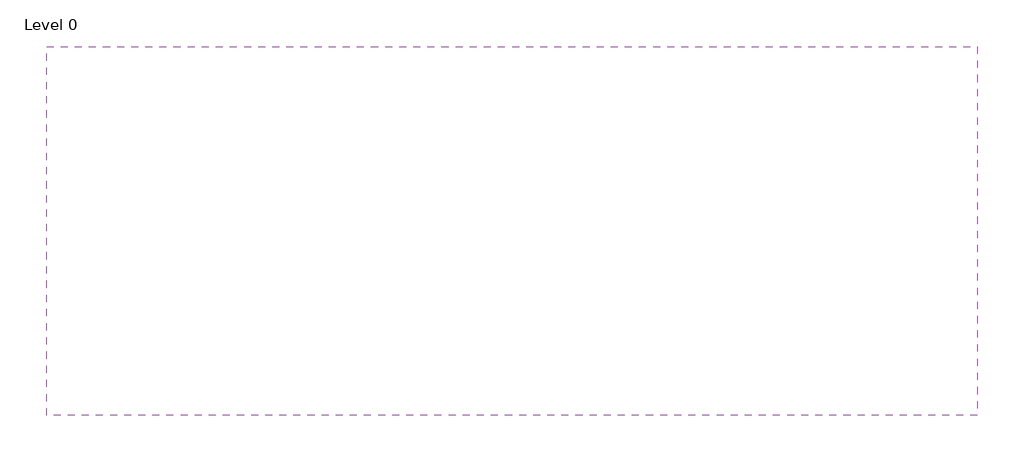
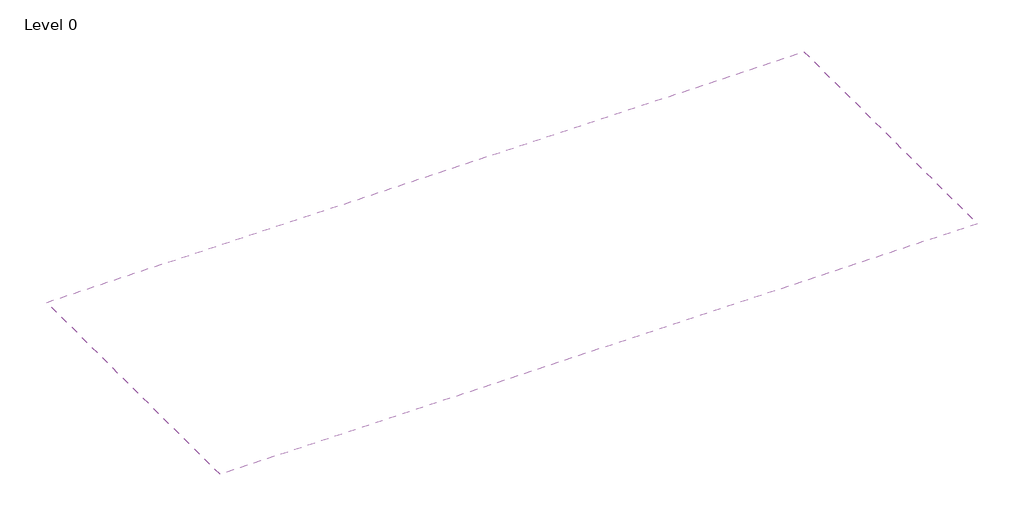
# One storey: 1 covering.
"""IFC4 building model written with IfcOpenShell, lengths in millimetres."""

from ifc_helpers import new_model, si_unit, frame, origin, place, context, project, spatial, polyline, outline, extrude, element, save

model = new_model("IFC4")

# Units and contexts
model_context = context("Model", 3, world=origin())
ifc_project = project(units=[si_unit("LENGTHUNIT", "METRE", prefix="MILLI")], contexts=[model_context])

# Site, building, storey
site = spatial("IfcSite", under=ifc_project)
building = spatial("IfcBuilding", under=site)
storey = spatial("IfcBuildingStorey", under=building, Name="Level 0", Elevation=0.0)

# Covering
placement = place(None, origin())
element("IfcCovering", 1, ObjectType="C100014 - CasoLine MF", at=placement, inside=storey, context=model_context, shape_type="SweptSolid", body=[
    extrude(outline(polyline([(5539.9180902, 3298.2151047), (5539.9180902, -1501.7848953), (-6560.0819098, -1501.7848953), (-6560.0819098, 3298.2151047), (5539.9180902, 3298.2151047)])), frame((0.0, 0.0, 2600.0), z_axis=(0.0, 0.0, 1.0), x_axis=(1.0, 0.0, 0.0)), (0.0, 0.0, 1.0), 87.5),
])

save(model, "model.ifc")
